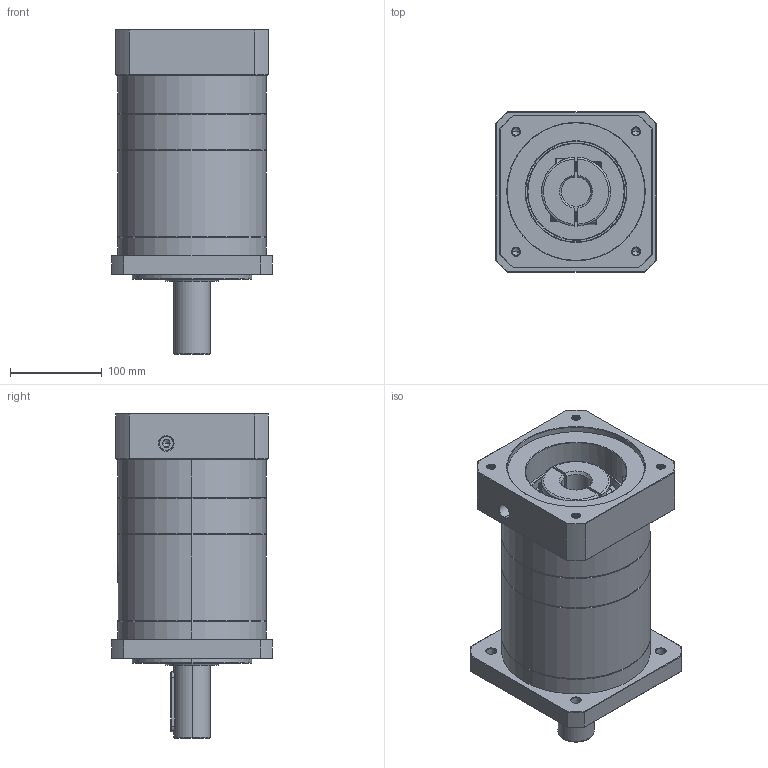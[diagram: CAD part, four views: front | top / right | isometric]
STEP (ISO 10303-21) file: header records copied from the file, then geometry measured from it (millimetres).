
FILE_DESCRIPTION (( 'STEP AP214' ), '1' );
FILE_NAME ('ZF160A-D40-L3-P2-32-150-185-M10.step', '2023-09-03T07:00:11', ( '' ), ( '' ), 'SwSTEP 2.0', 'SolidWorks 2016', '' );
FILE_SCHEMA (( 'AUTOMOTIVE_DESIGN' ));
Length unit declared in the file: millimetre
Products named in the file (1): ZF160A-D40-L3-P2-32-150-185-M10
Bounding box: 175 x 175 x 354.2 mm (x, y, z)
Volume: 5691107.3 mm3; surface area: 369522 mm2
Topology: 6 solids, 6 shells, 2211 faces, 5971 edges, 3865 vertices
Faces by surface type: plane 1017, cylinder 431, bspline 411, cone 330, torus 22
Entity records: 125747 total; most frequent: CARTESIAN_POINT 51069, ORIENTED_EDGE 11882, DIRECTION 8682, EDGE_CURVE 5941, VERTEX_POINT 3865, LINE 3078, VECTOR 3078, AXIS2_PLACEMENT_3D 2802
